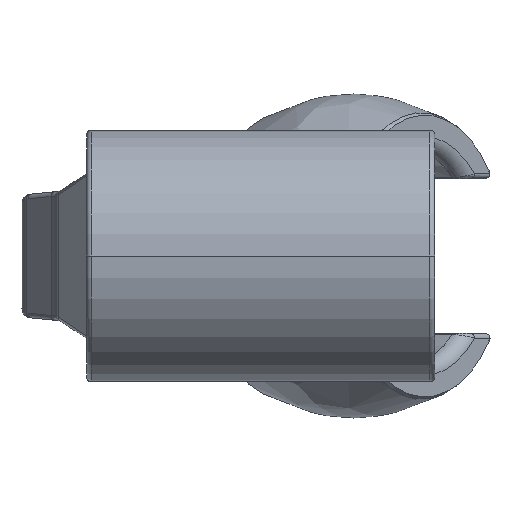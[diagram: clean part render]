
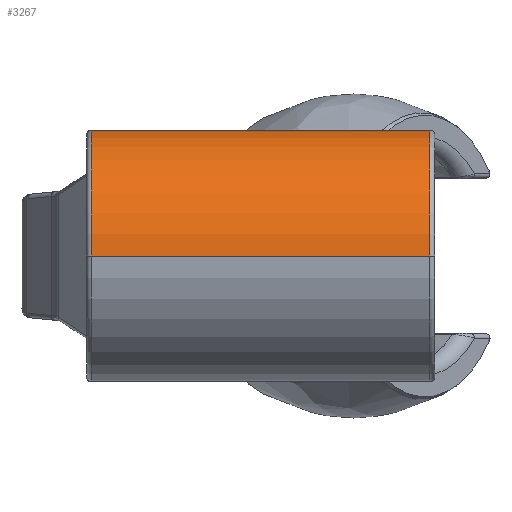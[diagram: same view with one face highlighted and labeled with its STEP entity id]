
A CAD part, left-side view. The second image highlights one B-rep face of the part: STEP entity #3267.
In plain terms, the highlighted cylindrical face has radius 13 mm (diameter 26 mm), a partial arc.
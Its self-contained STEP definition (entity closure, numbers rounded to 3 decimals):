
#583=CARTESIAN_POINT('',(11.042,9.673,6.861));
#595=CARTESIAN_POINT('',(11.042,9.673,6.861));
#596=CARTESIAN_POINT('',(11.182,9.886,6.636));
#597=CARTESIAN_POINT('',(11.446,10.282,6.18));
#598=CARTESIAN_POINT('',(11.793,10.79,5.489));
#599=CARTESIAN_POINT('',(12.091,11.221,4.794));
#600=CARTESIAN_POINT('',(12.344,11.582,4.099));
#601=CARTESIAN_POINT('',(12.553,11.876,3.405));
#602=CARTESIAN_POINT('',(12.719,12.11,2.717));
#603=CARTESIAN_POINT('',(12.846,12.287,2.032));
#604=CARTESIAN_POINT('',(12.936,12.411,1.349));
#605=CARTESIAN_POINT('',(12.989,12.484,0.671));
#606=CARTESIAN_POINT('',(13.,12.5,0.223));
#607=CARTESIAN_POINT('',(13.,12.5,0.));
#774=CARTESIAN_POINT('',(11.042,-9.673,6.861));
#789=CARTESIAN_POINT('',(0.,17.5,0.));
#790=DIRECTION('',(0.,1.,0.));
#791=DIRECTION('',(-1.,0.,0.));
#792=AXIS2_PLACEMENT_3D('',#789,#790,#791);
#794=DIRECTION('',(0.,1.,0.));
#795=VECTOR('',#794,19.347);
#796=CARTESIAN_POINT('',(11.042,-9.673,6.861));
#797=LINE('',#796,#795);
#798=CARTESIAN_POINT('',(0.,-17.5,0.));
#799=DIRECTION('',(0.,1.,0.));
#800=DIRECTION('',(-1.,0.,0.));
#801=AXIS2_PLACEMENT_3D('',#798,#799,#800);
#828=DIRECTION('',(0.,1.,0.));
#829=VECTOR('',#828,35.);
#830=CARTESIAN_POINT('',(-13.,-17.5,0.));
#831=LINE('',#830,#829);
#837=DIRECTION('',(0.,1.,0.));
#838=VECTOR('',#837,5.);
#839=CARTESIAN_POINT('',(13.,-17.5,0.));
#840=LINE('',#839,#838);
#845=DIRECTION('',(0.,1.,0.));
#846=VECTOR('',#845,5.);
#847=CARTESIAN_POINT('',(13.,12.5,0.));
#848=LINE('',#847,#846);
#1154=CARTESIAN_POINT('',(13.,-12.5,0.));
#1155=CARTESIAN_POINT('',(13.,-12.5,
0.222));
#1156=CARTESIAN_POINT('',(12.989,-12.484,
0.669));
#1157=CARTESIAN_POINT('',(12.936,-12.412,1.346));
#1158=CARTESIAN_POINT('',(12.847,-12.288,2.029));
#1159=CARTESIAN_POINT('',(12.72,-12.11,2.716));
#1160=CARTESIAN_POINT('',(12.553,-11.876,3.405));
#1161=CARTESIAN_POINT('',(12.345,-11.582,4.097));
#1162=CARTESIAN_POINT('',(12.092,-11.222,4.792));
#1163=CARTESIAN_POINT('',(11.793,-10.791,5.488));
#1164=CARTESIAN_POINT('',(11.446,-10.282,6.18));
#1165=CARTESIAN_POINT('',(11.182,-9.886,6.636));
#1166=CARTESIAN_POINT('',(11.042,-9.673,6.861));
#1687=CARTESIAN_POINT('',(13.,12.5,0.));
#1688=VERTEX_POINT('',#1687);
#1689=CARTESIAN_POINT('',(13.,-12.5,0.));
#1690=VERTEX_POINT('',#1689);
#1695=VERTEX_POINT('',#583);
#1697=VERTEX_POINT('',#774);
#1785=CARTESIAN_POINT('',(-13.,17.5,0.));
#1786=CARTESIAN_POINT('',(13.,17.5,0.));
#1787=VERTEX_POINT('',#1785);
#1788=VERTEX_POINT('',#1786);
#1789=CARTESIAN_POINT('',(13.,-17.5,0.));
#1790=CARTESIAN_POINT('',(-13.,-17.5,0.));
#1791=VERTEX_POINT('',#1789);
#1792=VERTEX_POINT('',#1790);
#3246=CARTESIAN_POINT('',(0.,19.8,0.));
#3247=DIRECTION('',(0.,-1.,0.));
#3248=DIRECTION('',(-1.,0.,0.));
#3249=AXIS2_PLACEMENT_3D('',#3246,#3247,#3248);
#3250=CYLINDRICAL_SURFACE('',#3249,13.);
#3252=ORIENTED_EDGE('',*,*,#3251,.T.);
#3254=ORIENTED_EDGE('',*,*,#3253,.F.);
#3255=ORIENTED_EDGE('',*,*,#2871,.F.);
#3256=ORIENTED_EDGE('',*,*,#3240,.F.);
#3258=ORIENTED_EDGE('',*,*,#3257,.F.);
#3260=ORIENTED_EDGE('',*,*,#3259,.F.);
#3262=ORIENTED_EDGE('',*,*,#3261,.F.);
#3264=ORIENTED_EDGE('',*,*,#3263,.T.);
#3265=EDGE_LOOP('',(#3252,#3254,#3255,#3256,#3258,#3260,#3262,#3264));
#3266=FACE_OUTER_BOUND('',#3265,.F.);
#608=B_SPLINE_CURVE_WITH_KNOTS('',3,(#595,#596,#597,#598,#599,#600,#601,#602,
#603,#604,#605,#606,#607),.UNSPECIFIED.,.F.,.F.,(4,1,1,1,1,1,1,1,1,1,4),(0.,
0.1,0.2,0.3,0.4,0.5,0.6,0.7,0.8,0.9,1.),.UNSPECIFIED.);
#793=CIRCLE('',#792,13.);
#802=CIRCLE('',#801,13.);
#1167=B_SPLINE_CURVE_WITH_KNOTS('',3,(#1154,#1155,#1156,#1157,#1158,#1159,#1160,
#1161,#1162,#1163,#1164,#1165,#1166),.UNSPECIFIED.,.F.,.F.,(4,1,1,1,1,1,1,1,1,1,
4),(0.,0.1,0.2,0.3,0.4,0.5,0.6,0.7,0.8,0.9,1.),
.UNSPECIFIED.);
#2871=EDGE_CURVE('',#1695,#1688,#608,.T.);
#3240=EDGE_CURVE('',#1697,#1695,#797,.T.);
#3251=EDGE_CURVE('',#1787,#1788,#793,.T.);
#3253=EDGE_CURVE('',#1688,#1788,#848,.T.);
#3257=EDGE_CURVE('',#1690,#1697,#1167,.T.);
#3259=EDGE_CURVE('',#1791,#1690,#840,.T.);
#3261=EDGE_CURVE('',#1792,#1791,#802,.T.);
#3263=EDGE_CURVE('',#1792,#1787,#831,.T.);
#3267=ADVANCED_FACE('',(#3266),#3250,.T.);
